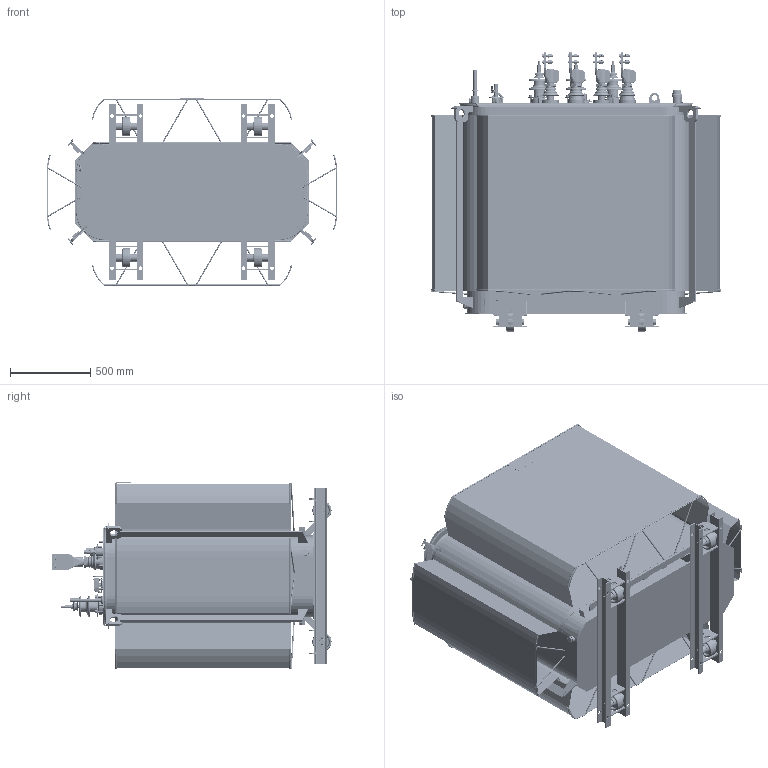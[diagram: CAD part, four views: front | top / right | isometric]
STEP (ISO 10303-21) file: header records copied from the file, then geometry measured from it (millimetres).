
FILE_DESCRIPTION(/* description */ (''),/* implementation_level */ '2;1');
FILE_NAME(/* name */ 'D:\SEARCHWORK\3Д_Модели\ТМГ21-1250\Серийный\ТМГ21-1250_10.stp',/* time_stamp */ '2026-04-17T09:37:15+03:00',/* author */ ('53122'),/* organization */ (''),/* preprocessor_version */ 'ST-DEVELOPER v18.1',/* originating_system */ 'Autodesk Inventor 2021',/* authorisation */ '');
FILE_SCHEMA (('AUTOMOTIVE_DESIGN { 1 0 10303 214 3 1 1 }'));
Products named in the file (1): ТМГ21-1250_10_Shrinkwrap_1
Bounding box: 1813.97 x 1742 x 1167.4 mm (x, y, z)
Volume: 40765914.3 mm3; surface area: 24698987.1 mm2
Topology: 362 solids, 363 shells, 7037 faces, 16499 edges, 10357 vertices
Faces by surface type: plane 3316, bspline 1397, cylinder 1345, cone 451, torus 421, sphere 107
Full cylindrical faces by diameter (mm): 3.1 x2, 3.96 x1, 4 x1, 5 x1, 5.94 x3, 6 x8, 7 x1, 7.1 x2, 7.92 x3, 8 x38, 8.746 x17, 9 x5, 10 x18, 10.7 x3, 11 x1, 11.88 x24, 12 x36, 12.5 x2, 13 x3, 13.9 x1, 14 x2, 14.2 x2, 15 x2, 16 x1, 17 x5, 17.6 x1, 18 x5, 18.5 x1, 19 x1, 20 x3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
Entity records: 240171 total; most frequent: CARTESIAN_POINT 81310, ORIENTED_EDGE 32552, DIRECTION 28346, EDGE_CURVE 16300, VERTEX_POINT 10357, AXIS2_PLACEMENT_3D 10285, LINE 7776, VECTOR 7776
